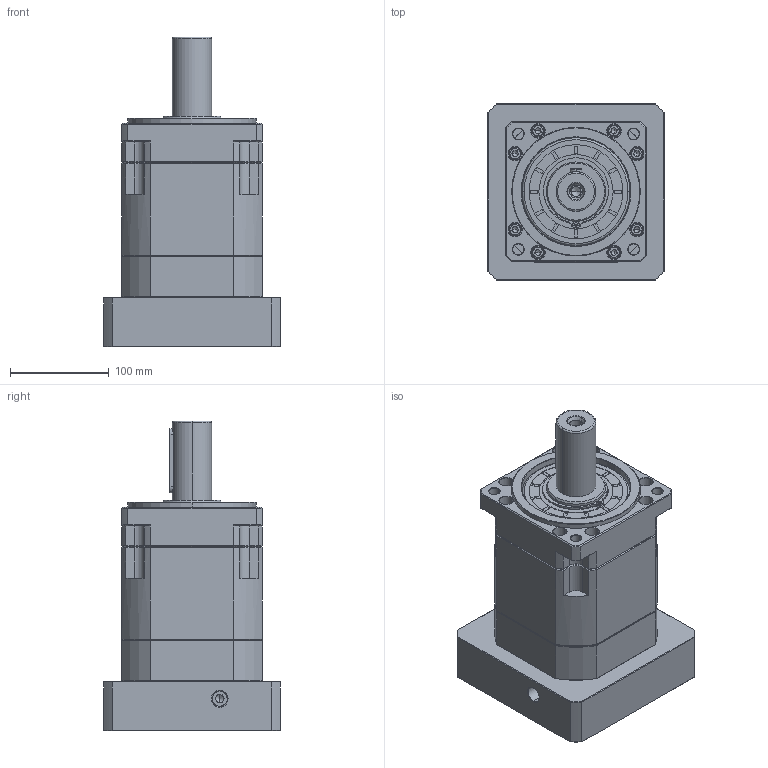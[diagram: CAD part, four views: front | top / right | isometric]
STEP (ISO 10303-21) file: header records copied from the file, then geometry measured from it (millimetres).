
FILE_DESCRIPTION (( 'STEP AP214' ), '1' );
FILE_NAME ('ZB142A-D40-L2-35-150-200-M12.step', '2023-03-17T10:47:17', ( '' ), ( '' ), 'SwSTEP 2.0', 'SolidWorks 2016', '' );
FILE_SCHEMA (( 'AUTOMOTIVE_DESIGN' ));
Length unit declared in the file: millimetre
Products named in the file (1): ZB142A-D40-L2-35-150-200-M12
Bounding box: 178 x 178 x 313.2 mm (x, y, z)
Volume: 4516460 mm3; surface area: 338243.4 mm2
Topology: 6 solids, 6 shells, 2024 faces, 5349 edges, 3424 vertices
Faces by surface type: plane 923, cylinder 414, cone 352, bspline 313, torus 22
Entity records: 113652 total; most frequent: CARTESIAN_POINT 43762, ORIENTED_EDGE 10638, DIRECTION 8777, EDGE_CURVE 5319, VERTEX_POINT 3424, LINE 3265, VECTOR 3265, AXIS2_PLACEMENT_3D 2756
